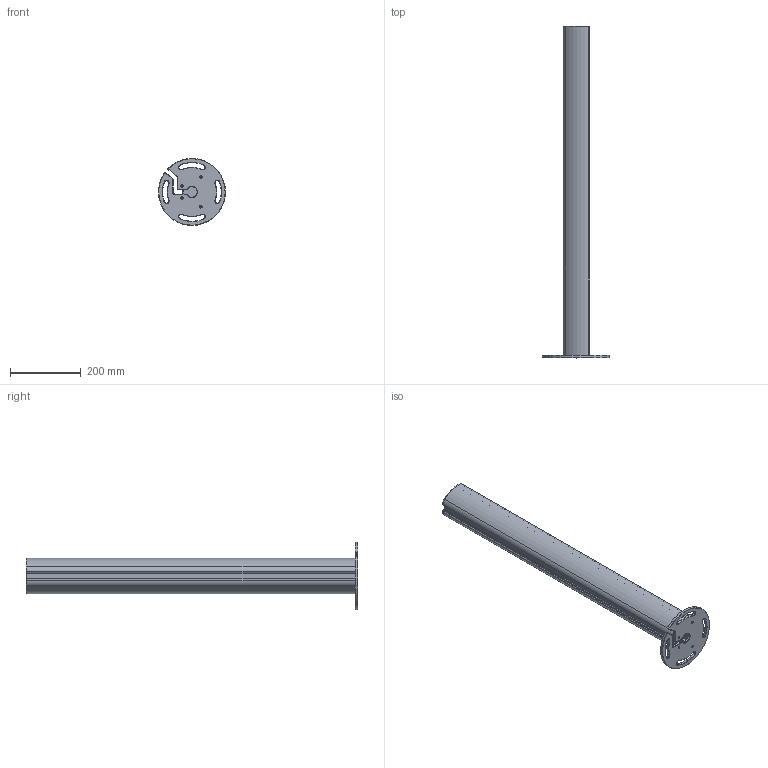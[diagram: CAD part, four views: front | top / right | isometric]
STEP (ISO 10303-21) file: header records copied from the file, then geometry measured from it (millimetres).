
FILE_DESCRIPTION((''),'2;1');
FILE_NAME('ESQC_ASM','2022-07-19T11:54:27',('18822879468'),(''),'CREO PARAMETRIC BY PTC INC, 2019010','CREO PARAMETRIC BY PTC INC, 2019010','');
FILE_SCHEMA(('CONFIG_CONTROL_DESIGN'));
Length unit declared in the file: millimetre
Products named in the file (5): 00; _-0001; _-0002; 000; ESQC_ASM
Assembly tree (4 placements, depth 2):
  ESQC_ASM
    00
    _-0001
    _-0002
    000
Bounding box: 189.81 x 940 x 189.85 mm (x, y, z)
Volume: 1439680.8 mm3; surface area: 751047.7 mm2
Topology: 4 solids, 4 shells, 239 faces, 613 edges, 378 vertices
Faces by surface type: cylinder 98, plane 73, cone 68
Entity records: 7388 total; most frequent: DIRECTION 1365, CARTESIAN_POINT 1235, ORIENTED_EDGE 1218, EDGE_CURVE 609, AXIS2_PLACEMENT_3D 508, VERTEX_POINT 378, VECTOR 349, LINE 349
